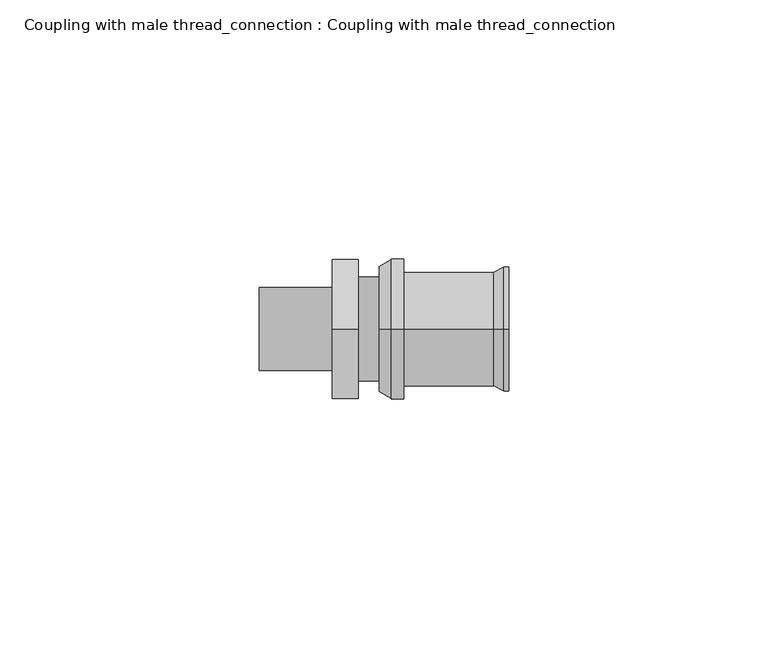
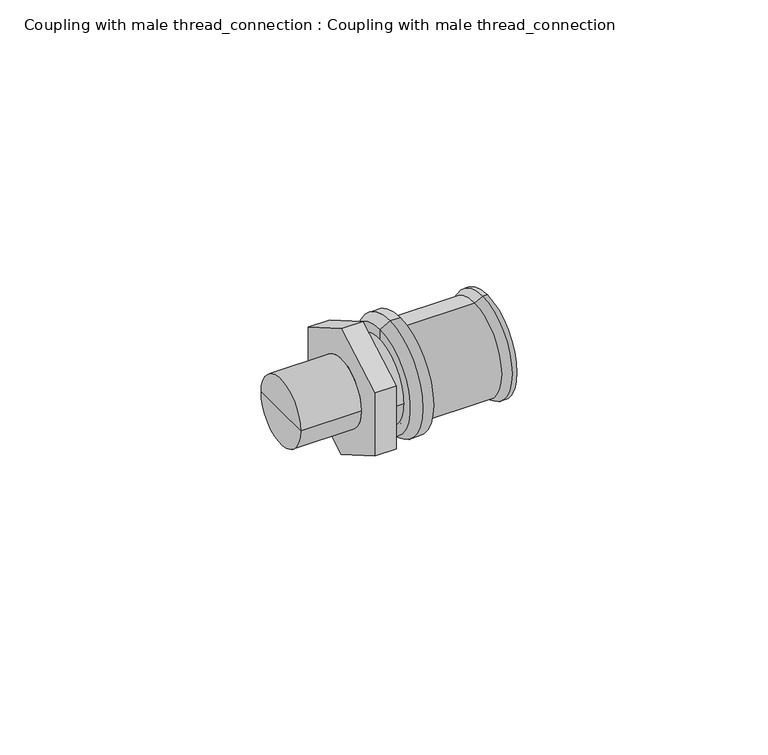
"""IFC4 building model written with IfcOpenShell, lengths in millimetres: pipe fitting geometry, Coupling with male thread_connection : Coupling with male thread_connection."""

from ifc_helpers import new_model, si_unit, frame, origin, place, context, project, spatial, polyline, circle_curve, source, transform, mapped, element, save
from ifc_brep_helpers import plane_surface, cylinder_surface, revolved_surface, advanced_brep


def coupling_with_male_thread_connection_coupling_with_male_6afa7456(model_context):
    return source(origin(), model_context, "Body", "AdvancedBrep", [
        advanced_brep(
        [(-1.0, 0.0, 0.0), (-1.0, 0.0, 12.1432269), (-1.0, 0.0, -12.1432269), (3.7, 0.0, -13.5), (3.7, 0.0, 13.5), (3.7, 0.0, 0.0), (1.35, 0.0, -13.5), (1.35, 0.0, 13.5)],
        [
            (0, 1),
            (1, 2, circle_curve(frame((-1.0, 0.0, 0.0), z_axis=(-1.0, 0.0, 0.0), x_axis=(0.0, 0.0, 1.0)), 12.1432269)),
            (2, 0),
            (2, 1, circle_curve(frame((-1.0, 0.0, 0.0), z_axis=(-1.0, 0.0, 0.0), x_axis=(0.0, 0.0, 1.0)), 12.1432269)),
            (3, 4, circle_curve(frame((3.7, 0.0, 0.0), z_axis=(1.0, 0.0, 0.0), x_axis=(0.0, 0.0, 1.0)), 13.5)),
            (4, 5),
            (5, 3),
            (4, 3, circle_curve(frame((3.7, 0.0, 0.0), z_axis=(1.0, 0.0, 0.0), x_axis=(0.0, 0.0, 1.0)), 13.5)),
            (6, 7, circle_curve(frame((1.35, 0.0, 0.0), z_axis=(1.0, 0.0, 0.0), x_axis=(0.0, 0.0, 1.0)), 13.5)),
            (7, 4),
            (3, 6),
            (7, 6, circle_curve(frame((1.35, 0.0, 0.0), z_axis=(1.0, 0.0, 0.0), x_axis=(0.0, 0.0, 1.0)), 13.5)),
            (1, 7),
            (6, 2),
        ],
        [
            plane_surface(frame((-1.0, 0.0, 0.0), z_axis=(-1.0, 0.0, 0.0), x_axis=(0.0, 0.0, 1.0))),
            plane_surface(frame((3.7, 0.0, 0.0), z_axis=(1.0, 0.0, 0.0), x_axis=(0.0, 0.0, 1.0))),
            cylinder_surface(frame((0.0, 0.0, 0.0), z_axis=(-1.0, 0.0, 0.0), x_axis=(0.0, 0.0, 1.0)), 13.5),
            revolved_surface(polyline([(1.35, 0.0, 13.5), (-1.0, 0.0, 12.1432269)]), (0.0, 0.0, 0.0), (-1.0, 0.0, 0.0)),
        ],
        [
            (0, [[1, 2, 3]]),
            (0, [[-3, 4, -1]]),
            (1, [[5, 6, 7]]),
            (1, [[8, -7, -6]]),
            (2, [[9, 10, -5, 11]]),
            (2, [[12, -11, -8, -10]]),
            (3, [[-2, 13, -9, 14]]),
            (3, [[-4, -14, -12, -13]]),
        ],
    ),
        advanced_brep(
        [(3.7, 0.0, -11.0), (3.7, 0.0, 11.0), (21.0, 0.0, 11.0), (21.0, 0.0, -11.0), (24.0, 0.0, -12.0), (24.0, 0.0, 12.0), (24.0, 0.0, 0.0), (3.7, 0.0, 0.0), (23.0, 0.0, -12.0), (23.0, 0.0, 12.0)],
        [
            (0, 1, circle_curve(frame((3.7, 0.0, 0.0), z_axis=(1.0, 0.0, 0.0), x_axis=(0.0, 0.0, 1.0)), 11.0)),
            (1, 2),
            (2, 3, circle_curve(frame((21.0, 0.0, 0.0), z_axis=(-1.0, 0.0, 0.0), x_axis=(0.0, 0.0, 1.0)), 11.0)),
            (3, 0),
            (1, 0, circle_curve(frame((3.7, 0.0, 0.0), z_axis=(1.0, 0.0, 0.0), x_axis=(0.0, 0.0, 1.0)), 11.0)),
            (3, 2, circle_curve(frame((21.0, 0.0, 0.0), z_axis=(-1.0, 0.0, 0.0), x_axis=(0.0, 0.0, 1.0)), 11.0)),
            (4, 5, circle_curve(frame((24.0, 0.0, 0.0), z_axis=(1.0, 0.0, 0.0), x_axis=(0.0, 0.0, 1.0)), 12.0)),
            (5, 6),
            (6, 4),
            (5, 4, circle_curve(frame((24.0, 0.0, 0.0), z_axis=(1.0, 0.0, 0.0), x_axis=(0.0, 0.0, 1.0)), 12.0)),
            (7, 1),
            (0, 7),
            (8, 9, circle_curve(frame((23.0, 0.0, 0.0), z_axis=(1.0, 0.0, 0.0), x_axis=(0.0, 0.0, 1.0)), 12.0)),
            (9, 5),
            (4, 8),
            (9, 8, circle_curve(frame((23.0, 0.0, 0.0), z_axis=(1.0, 0.0, 0.0), x_axis=(0.0, 0.0, 1.0)), 12.0)),
            (2, 9),
            (8, 3),
        ],
        [
            cylinder_surface(frame((-1911.8038476, 0.0, 0.0), z_axis=(-1.0, 0.0, 0.0), x_axis=(0.0, 0.0, 1.0)), 11.0),
            plane_surface(frame((24.0, 0.0, 0.0), z_axis=(1.0, 0.0, 0.0), x_axis=(0.0, 0.0, 1.0))),
            plane_surface(frame((3.7, 0.0, 0.0), z_axis=(-1.0, 0.0, 0.0), x_axis=(0.0, 0.0, 1.0))),
            cylinder_surface(frame((-1911.8038476, 0.0, 0.0), z_axis=(-1.0, 0.0, 0.0), x_axis=(0.0, 0.0, 1.0)), 12.0),
            revolved_surface(polyline([(23.0, 0.0, 12.0), (21.0, 0.0, 11.0)]), (-1911.8038476, 0.0, 0.0), (-1.0, 0.0, 0.0)),
        ],
        [
            (0, [[1, 2, 3, 4]]),
            (0, [[5, -4, 6, -2]]),
            (1, [[7, 8, 9]]),
            (1, [[10, -9, -8]]),
            (2, [[11, -1, 12]]),
            (2, [[-12, -5, -11]]),
            (3, [[13, 14, -7, 15]]),
            (3, [[16, -15, -10, -14]]),
            (4, [[-3, 17, -13, 18]]),
            (4, [[-6, -18, -16, -17]]),
        ],
    ),
        advanced_brep(
        [(-24.1319875, 0.0, 0.0), (-24.1319875, 8.0, 0.0), (-24.1319875, -8.0, 0.0), (0.0, -10.0, 0.0), (0.0, 10.0, 0.0), (0.0, 0.0, 0.0), (-5.0, -10.0, 0.0), (-5.0, 10.0, 0.0), (-5.0, -13.4233938, 7.75), (-5.0, -13.4233938, -7.75), (-5.0, 0.0, -15.5), (-5.0, 13.4233938, -7.75), (-5.0, 13.4233938, 7.75), (-5.0, 0.0, 15.5), (-10.0, -13.4233938, 7.75), (-10.0, 0.0, 15.5), (-10.0, 13.4233938, 7.75), (-10.0, 13.4233938, -7.75), (-10.0, 0.0, -15.5), (-10.0, -13.4233938, -7.75), (-10.0, -8.0, 0.0), (-10.0, 8.0, 0.0)],
        [
            (0, 1),
            (1, 2, circle_curve(frame((-24.1319875, 0.0, 0.0), z_axis=(-1.0, 0.0, 0.0), x_axis=(0.0, 1.0, 0.0)), 8.0)),
            (2, 0),
            (2, 1, circle_curve(frame((-24.1319875, 0.0, 0.0), z_axis=(-1.0, 0.0, 0.0), x_axis=(0.0, 1.0, 0.0)), 8.0)),
            (3, 4, circle_curve(frame((0.0, 0.0, 0.0), z_axis=(1.0, 0.0, 0.0), x_axis=(0.0, 1.0, 0.0)), 10.0)),
            (4, 5),
            (5, 3),
            (4, 3, circle_curve(frame((0.0, 0.0, 0.0), z_axis=(1.0, 0.0, 0.0), x_axis=(0.0, 1.0, 0.0)), 10.0)),
            (3, 6),
            (6, 7, circle_curve(frame((-5.0, 0.0, 0.0), z_axis=(1.0, 0.0, 0.0), x_axis=(0.0, 1.0, 0.0)), 10.0)),
            (7, 4),
            (7, 6, circle_curve(frame((-5.0, 0.0, 0.0), z_axis=(1.0, 0.0, 0.0), x_axis=(0.0, 1.0, 0.0)), 10.0)),
            (8, 9),
            (9, 10),
            (10, 11),
            (11, 12),
            (12, 13),
            (13, 8),
            (14, 15),
            (15, 16),
            (16, 17),
            (17, 18),
            (18, 19),
            (19, 14),
            (20, 21, circle_curve(frame((-10.0, 0.0, 0.0), z_axis=(1.0, 0.0, 0.0), x_axis=(0.0, 1.0, 0.0)), 8.0)),
            (21, 20, circle_curve(frame((-10.0, 0.0, 0.0), z_axis=(1.0, 0.0, 0.0), x_axis=(0.0, 1.0, 0.0)), 8.0)),
            (8, 14),
            (19, 9),
            (18, 10),
            (17, 11),
            (16, 12),
            (15, 13),
            (1, 21),
            (20, 2),
        ],
        [
            plane_surface(frame((-24.1319875, 0.0, 0.0), z_axis=(-1.0, 0.0, 0.0), x_axis=(0.0, 1.0, 0.0))),
            plane_surface(frame((0.0, 0.0, 0.0), z_axis=(1.0, 0.0, 0.0), x_axis=(0.0, 1.0, 0.0))),
            cylinder_surface(frame((0.0, 0.0, 0.0), z_axis=(-1.0, 0.0, 0.0), x_axis=(0.0, 1.0, 0.0)), 10.0),
            plane_surface(frame((-5.0, -13.4233938, 7.75), z_axis=(1.0, 0.0, 0.0), x_axis=(0.0, 0.0, -1.0))),
            plane_surface(frame((-10.0, -13.4233938, 7.75), z_axis=(-1.0, 0.0, 0.0), x_axis=(0.0, 0.0, 1.0))),
            plane_surface(frame((-5.0, -13.4233938, 7.75), z_axis=(0.0, -1.0, 0.0), x_axis=(-1.0, 0.0, 0.0))),
            plane_surface(frame((-5.0, -13.4233938, -7.75), z_axis=(0.0, -0.5000000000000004, -0.8660254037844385), x_axis=(-1.0, 0.0, 0.0))),
            plane_surface(frame((-5.0, 0.0, -15.5), z_axis=(0.0, 0.500000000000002, -0.8660254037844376), x_axis=(-1.0, 0.0, 0.0))),
            plane_surface(frame((-5.0, 13.4233938, -7.75), z_axis=(0.0, 1.0, 0.0), x_axis=(-1.0, 0.0, 0.0))),
            plane_surface(frame((-5.0, 13.4233938, 7.75), z_axis=(0.0, 0.5000000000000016, 0.8660254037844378), x_axis=(-1.0, 0.0, 0.0))),
            plane_surface(frame((-5.0, 0.0, 15.5), z_axis=(0.0, -0.500000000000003, 0.866025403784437), x_axis=(-1.0, 0.0, 0.0))),
            cylinder_surface(frame((0.0, 0.0, 0.0), z_axis=(-1.0, 0.0, 0.0), x_axis=(0.0, 1.0, 0.0)), 8.0),
        ],
        [
            (0, [[1, 2, 3]]),
            (0, [[-1, -3, 4]]),
            (1, [[5, 6, 7]]),
            (1, [[-6, 8, -7]]),
            (2, [[-5, 9, 10, 11]]),
            (2, [[-8, -11, 12, -9]]),
            (3, [[13, 14, 15, 16, 17, 18], [-10, -12]]),
            (4, [[19, 20, 21, 22, 23, 24], [25, 26]]),
            (5, [[-13, 27, -24, 28]]),
            (6, [[-14, -28, -23, 29]]),
            (7, [[-15, -29, -22, 30]]),
            (8, [[-16, -30, -21, 31]]),
            (9, [[-17, -31, -20, 32]]),
            (10, [[-18, -32, -19, -27]]),
            (11, [[-2, 33, -25, 34]]),
            (11, [[-4, -34, -26, -33]]),
        ],
    ),
    ])


if __name__ == "__main__":
    model = new_model("IFC4")
    model_context = context("Model", 3, world=origin())
    ifc_project = project(units=[si_unit("LENGTHUNIT", "METRE", prefix="MILLI")], contexts=[model_context])
    site = spatial("IfcSite", under=ifc_project)
    building = spatial("IfcBuilding", under=site)
    placement = place(None, origin())
    coupling_with_male_thread_connection_coupling_with_male_shape = coupling_with_male_thread_connection_coupling_with_male_6afa7456(model_context)
    element("IfcPipeFitting", 1, ObjectType="Coupling with male thread_connection : Coupling with male thread_connection", at=placement, inside=building, context=model_context, shape_type="MappedRepresentation", body=[
        mapped(coupling_with_male_thread_connection_coupling_with_male_shape, transform((0.0, 0.0, 0.0), x_axis=(1.0, 0.0, 0.0), y_axis=(0.0, 1.0, 0.0), z_axis=(0.0, 0.0, 1.0))),
    ])
    save(model, "model.ifc")
